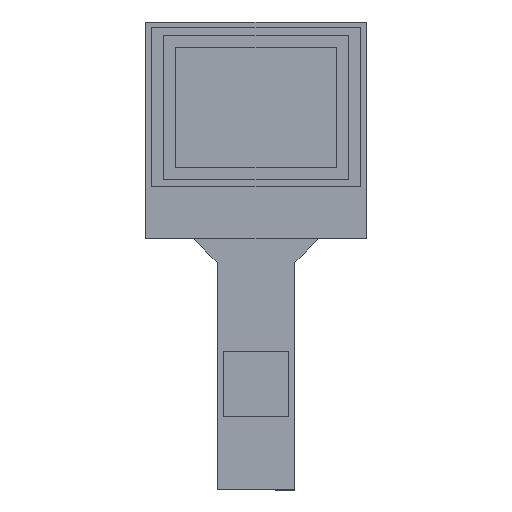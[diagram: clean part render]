
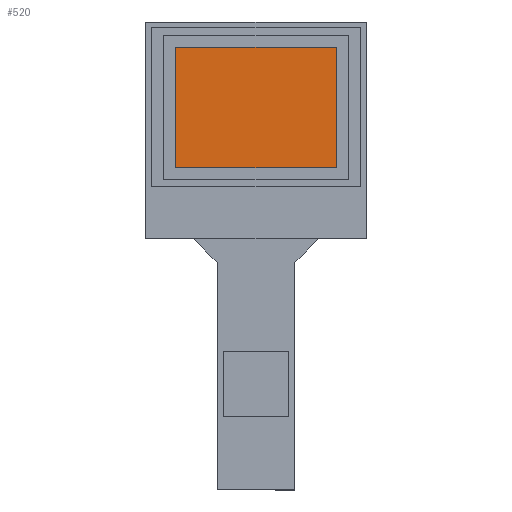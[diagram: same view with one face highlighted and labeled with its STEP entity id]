
A CAD part, top view. The second image highlights one B-rep face of the part: STEP entity #520.
In plain terms, the highlighted planar face has unit normal (0, 0, 1).
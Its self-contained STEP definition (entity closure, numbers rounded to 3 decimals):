
#48 = AXIS2_PLACEMENT_3D ( 'NONE', #188, #1202, #1463 ) ;
#112 = EDGE_CURVE ( 'NONE', #1352, #1268, #230, .T. ) ;
#162 = CARTESIAN_POINT ( 'NONE',  ( -6.71, 0., 1.26 ) ) ;
#188 = CARTESIAN_POINT ( 'NONE',  ( 0., 0., 1.26 ) ) ;
#230 = LINE ( 'NONE', #244, #1333 ) ;
#244 = CARTESIAN_POINT ( 'NONE',  ( 0., -3.11, 1.26 ) ) ;
#266 = VERTEX_POINT ( 'NONE', #1400 ) ;
#341 = PLANE ( 'NONE',  #48 ) ;
#372 = VERTEX_POINT ( 'NONE', #848 ) ;
#520 = ADVANCED_FACE ( 'NONE', ( #659 ), #341, .T. ) ;
#553 = DIRECTION ( 'NONE',  ( 0., -1., 0. ) ) ;
#568 = ORIENTED_EDGE ( 'NONE', *, *, #796, .F. ) ;
#659 = FACE_OUTER_BOUND ( 'NONE', #1461, .T. ) ;
#665 = CARTESIAN_POINT ( 'NONE',  ( -6.71, -3.11, 1.26 ) ) ;
#675 = LINE ( 'NONE', #1569, #1679 ) ;
#711 = LINE ( 'NONE', #1085, #803 ) ;
#796 = EDGE_CURVE ( 'NONE', #1268, #266, #1658, .T. ) ;
#803 = VECTOR ( 'NONE', #1483, 1000. ) ;
#848 = CARTESIAN_POINT ( 'NONE',  ( 6.71, 6.95, 1.26 ) ) ;
#1085 = CARTESIAN_POINT ( 'NONE',  ( 0., 6.95, 1.26 ) ) ;
#1104 = EDGE_CURVE ( 'NONE', #266, #372, #711, .T. ) ;
#1202 = DIRECTION ( 'NONE',  ( 0., 0., 1. ) ) ;
#1268 = VERTEX_POINT ( 'NONE', #665 ) ;
#1333 = VECTOR ( 'NONE', #1376, 1000. ) ;
#1352 = VERTEX_POINT ( 'NONE', #1550 ) ;
#1359 = ORIENTED_EDGE ( 'NONE', *, *, #1104, .F. ) ;
#1376 = DIRECTION ( 'NONE',  ( -1., 0., 0. ) ) ;
#1400 = CARTESIAN_POINT ( 'NONE',  ( -6.71, 6.95, 1.26 ) ) ;
#1433 = DIRECTION ( 'NONE',  ( 0., 1., 0. ) ) ;
#1461 = EDGE_LOOP ( 'NONE', ( #568, #1558, #1687, #1359 ) ) ;
#1463 = DIRECTION ( 'NONE',  ( 1., 0., 0. ) ) ;
#1483 = DIRECTION ( 'NONE',  ( 1., 0., 0. ) ) ;
#1550 = CARTESIAN_POINT ( 'NONE',  ( 6.71, -3.11, 1.26 ) ) ;
#1558 = ORIENTED_EDGE ( 'NONE', *, *, #112, .F. ) ;
#1569 = CARTESIAN_POINT ( 'NONE',  ( 6.71, 0., 1.26 ) ) ;
#1645 = VECTOR ( 'NONE', #1433, 1000. ) ;
#1658 = LINE ( 'NONE', #162, #1645 ) ;
#1679 = VECTOR ( 'NONE', #553, 1000. ) ;
#1687 = ORIENTED_EDGE ( 'NONE', *, *, #1870, .F. ) ;
#1870 = EDGE_CURVE ( 'NONE', #372, #1352, #675, .T. ) ;
